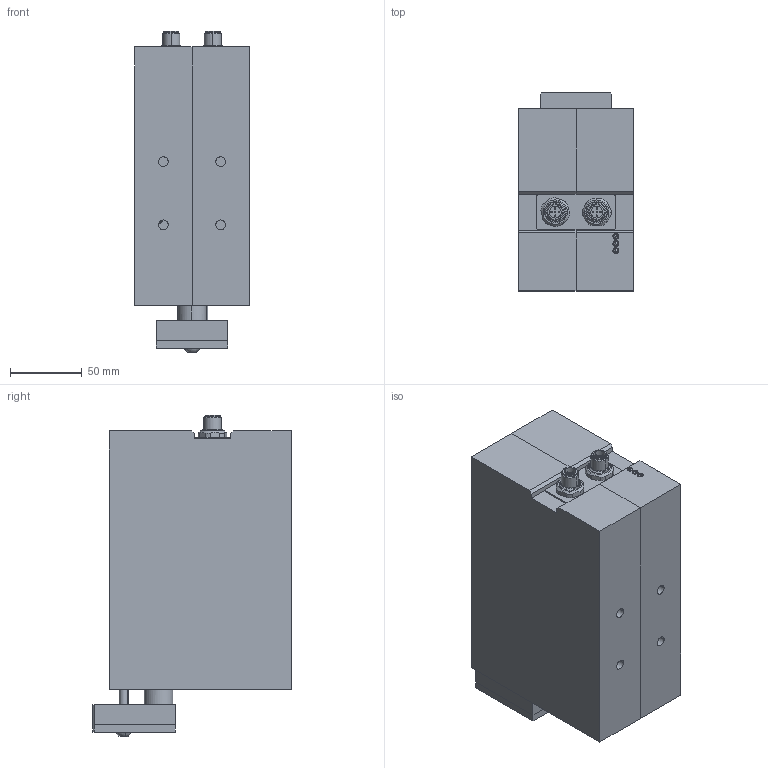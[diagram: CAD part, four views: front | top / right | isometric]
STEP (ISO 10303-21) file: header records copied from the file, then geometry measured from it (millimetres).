
FILE_DESCRIPTION (( 'STEP AP203' ), '1' );
FILE_NAME ('ELD-660-11-5A_Grundstellung.STEP', '2020-04-29T07:48:27', ( '' ), ( '' ), 'SwSTEP 2.0', 'SolidWorks 2017', '' );
FILE_SCHEMA (( 'CONFIG_CONTROL_DESIGN' ));
Length unit declared in the file: millimetre
Products named in the file (1): ELD-660-11-5A_Grundstellung
Bounding box: 80 x 138.5 x 224.21 mm (x, y, z)
Surface area: 155551.5 mm2 (no closed solid volume)
Topology: 0 solids, 38 shells, 308 faces, 1042 edges, 764 vertices
Faces by surface type: plane 139, cylinder 97, cone 39, bspline 21, sphere 8, torus 4
Entity records: 12072 total; most frequent: CARTESIAN_POINT 2974, DIRECTION 1973, ORIENTED_EDGE 1599, EDGE_CURVE 1042, VERTEX_POINT 764, AXIS2_PLACEMENT_3D 707, LINE 559, VECTOR 559
